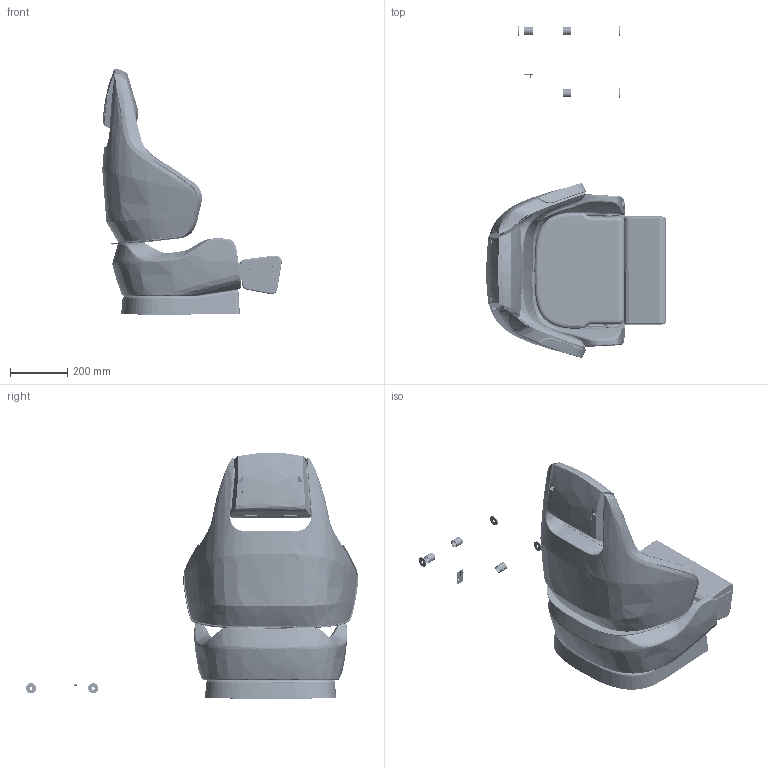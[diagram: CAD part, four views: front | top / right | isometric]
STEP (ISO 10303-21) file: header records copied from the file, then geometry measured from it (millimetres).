
FILE_DESCRIPTION(/* description */ (''),/* implementation_level */ '2;1');
FILE_NAME(/* name */ 'RIS00088-MATEMATICHE ALIOTH CON SLITTA.stp',/* time_stamp */ '2021-10-21T14:41:34+02:00',/* author */ (''),/* organization */ (''),/* preprocessor_version */ 'ST-DEVELOPER v16.7',/* originating_system */ 'SIEMENS PLM Software NX 1919',/* authorisation */ '');
FILE_SCHEMA (('AUTOMOTIVE_DESIGN { 1 0 10303 214 3 1 1 1 }'));
Products named in the file (1): RIS00088-MATEMATICHE ALIOTH CON SLITTA
Bounding box: 625.1 x 1155.89 x 858.7 mm (x, y, z)
Volume: 28304567.4 mm3; surface area: 7712799.6 mm2
Topology: 62 solids, 69 shells, 4934 faces, 15513 edges, 10719 vertices
Faces by surface type: bspline 1678, plane 1266, cylinder 1214, extrusion 352, cone 180, torus 162, sphere 78, revolution 4
Full cylindrical faces by diameter (mm): 3 x4, 4.26 x1, 4.5 x2, 6 x8, 6.5 x2, 6.8 x18, 8 x38, 8.9 x4, 9 x4, 10 x9, 11 x8, 12 x4, 15 x8, 19 x4, 21.3 x2, 23 x2, 23.2 x2, 24 x3, 24.2 x2, 27 x5, 35 x3
Entity records: 716012 total; most frequent: CARTESIAN_POINT 591330, ORIENTED_EDGE 30138, DIRECTION 16520, EDGE_CURVE 15069, VERTEX_POINT 10553, B_SPLINE_CURVE_WITH_KNOTS 8156, AXIS2_PLACEMENT_3D 6110, EDGE_LOOP 5358
